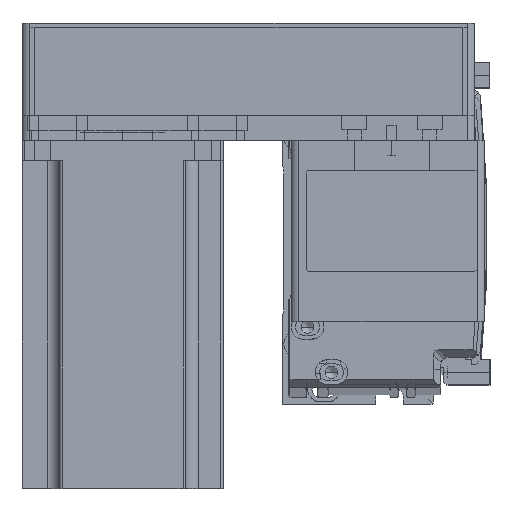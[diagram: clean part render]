
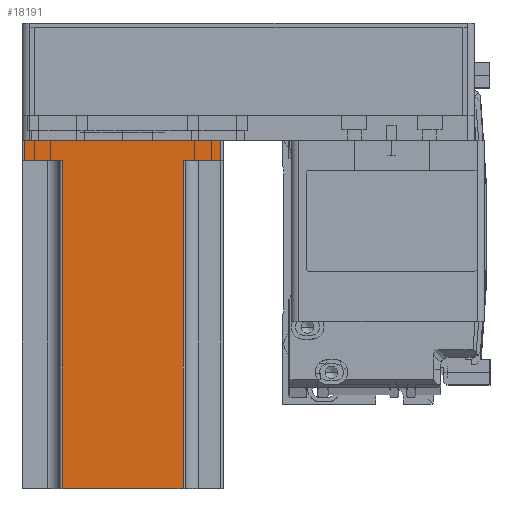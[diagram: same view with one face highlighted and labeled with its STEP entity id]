
A CAD part, top view. The second image highlights one B-rep face of the part: STEP entity #18191.
In plain terms, the highlighted planar face has unit normal (0, 0, 1) as drawn and (0, 1, 0) by its records, which use the part's own axes.
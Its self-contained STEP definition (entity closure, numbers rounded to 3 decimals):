
#522 = VECTOR ( 'NONE', #17550, 1000. ) ;
#743 = EDGE_CURVE ( 'NONE', #40545, #37401, #62537, .T. ) ;
#1443 = CARTESIAN_POINT ( 'NONE',  ( 39., 40., 138.3 ) ) ;
#1649 = CARTESIAN_POINT ( 'NONE',  ( -25., 40., 8. ) ) ;
#2076 = LINE ( 'NONE', #51930, #522 ) ;
#6078 = CARTESIAN_POINT ( 'NONE',  ( 40., 40., 138.3 ) ) ;
#7339 = LINE ( 'NONE', #29811, #56590 ) ;
#9242 = AXIS2_PLACEMENT_3D ( 'NONE', #6078, #40472, #10977 ) ;
#10212 = DIRECTION ( 'NONE',  ( 0., 0., 1. ) ) ;
#10977 = DIRECTION ( 'NONE',  ( 1., 0., 0. ) ) ;
#11109 = VECTOR ( 'NONE', #40799, 1000. ) ;
#13021 = VECTOR ( 'NONE', #43480, 1000. ) ;
#15346 = CARTESIAN_POINT ( 'NONE',  ( 39., 40., 0. ) ) ;
#15759 = ORIENTED_EDGE ( 'NONE', *, *, #24458, .F. ) ;
#17419 = CARTESIAN_POINT ( 'NONE',  ( 24., 40., 138.3 ) ) ;
#17550 = DIRECTION ( 'NONE',  ( -1., 0., 0. ) ) ;
#17841 = EDGE_CURVE ( 'NONE', #30041, #26587, #2076, .T. ) ;
#18153 = CARTESIAN_POINT ( 'NONE',  ( 39., 40., 8. ) ) ;
#18191 = ADVANCED_FACE ( 'NONE', ( #28934 ), #20706, .F. ) ;
#20706 = PLANE ( 'NONE',  #9242 ) ;
#20835 = CARTESIAN_POINT ( 'NONE',  ( -24., 40., 138.3 ) ) ;
#21935 = VECTOR ( 'NONE', #51752, 1000. ) ;
#22325 = CARTESIAN_POINT ( 'NONE',  ( 25., 40., 8. ) ) ;
#23688 = ORIENTED_EDGE ( 'NONE', *, *, #55030, .T. ) ;
#24249 = LINE ( 'NONE', #20835, #11109 ) ;
#24392 = CARTESIAN_POINT ( 'NONE',  ( 24., 40., 8. ) ) ;
#24458 = EDGE_CURVE ( 'NONE', #40545, #60844, #46529, .T. ) ;
#24579 = EDGE_LOOP ( 'NONE', ( #23688, #40997, #60652, #40341, #15759, #63583, #24657, #54789 ) ) ;
#24657 = ORIENTED_EDGE ( 'NONE', *, *, #31338, .T. ) ;
#25957 = EDGE_CURVE ( 'NONE', #30041, #60844, #62257, .T. ) ;
#26142 = LINE ( 'NONE', #1649, #50743 ) ;
#26587 = VERTEX_POINT ( 'NONE', #34572 ) ;
#26596 = VERTEX_POINT ( 'NONE', #49396 ) ;
#27560 = CARTESIAN_POINT ( 'NONE',  ( -39., 40., 8. ) ) ;
#28930 = EDGE_CURVE ( 'NONE', #44702, #44466, #60128, .T. ) ;
#28934 = FACE_OUTER_BOUND ( 'NONE', #24579, .T. ) ;
#29811 = CARTESIAN_POINT ( 'NONE',  ( 40., 40., 0. ) ) ;
#30041 = VERTEX_POINT ( 'NONE', #17419 ) ;
#31338 = EDGE_CURVE ( 'NONE', #37401, #44702, #7339, .T. ) ;
#34572 = CARTESIAN_POINT ( 'NONE',  ( -24., 40., 138.3 ) ) ;
#34696 = DIRECTION ( 'NONE',  ( -1., 0., 0. ) ) ;
#37401 = VERTEX_POINT ( 'NONE', #15346 ) ;
#40341 = ORIENTED_EDGE ( 'NONE', *, *, #25957, .T. ) ;
#40472 = DIRECTION ( 'NONE',  ( 0., -1., 0. ) ) ;
#40545 = VERTEX_POINT ( 'NONE', #18153 ) ;
#40755 = DIRECTION ( 'NONE',  ( 0., 0., -1. ) ) ;
#40799 = DIRECTION ( 'NONE',  ( 0., 0., 1. ) ) ;
#40997 = ORIENTED_EDGE ( 'NONE', *, *, #57141, .T. ) ;
#43480 = DIRECTION ( 'NONE',  ( 0., 0., -1. ) ) ;
#44466 = VERTEX_POINT ( 'NONE', #27560 ) ;
#44647 = CARTESIAN_POINT ( 'NONE',  ( -39., 40., 138.3 ) ) ;
#44702 = VERTEX_POINT ( 'NONE', #54366 ) ;
#46529 = LINE ( 'NONE', #22325, #21935 ) ;
#47942 = VECTOR ( 'NONE', #40755, 1000. ) ;
#48228 = CARTESIAN_POINT ( 'NONE',  ( 24., 40., 138.3 ) ) ;
#49396 = CARTESIAN_POINT ( 'NONE',  ( -24., 40., 8. ) ) ;
#50743 = VECTOR ( 'NONE', #60493, 1000. ) ;
#51752 = DIRECTION ( 'NONE',  ( -1., 0., 0. ) ) ;
#51930 = CARTESIAN_POINT ( 'NONE',  ( 40., 40., 138.3 ) ) ;
#54366 = CARTESIAN_POINT ( 'NONE',  ( -39., 40., 0. ) ) ;
#54789 = ORIENTED_EDGE ( 'NONE', *, *, #28930, .T. ) ;
#55030 = EDGE_CURVE ( 'NONE', #44466, #26596, #26142, .T. ) ;
#56590 = VECTOR ( 'NONE', #34696, 1000. ) ;
#57141 = EDGE_CURVE ( 'NONE', #26596, #26587, #24249, .T. ) ;
#58598 = VECTOR ( 'NONE', #10212, 1000. ) ;
#60128 = LINE ( 'NONE', #44647, #58598 ) ;
#60493 = DIRECTION ( 'NONE',  ( 1., 0., 0. ) ) ;
#60652 = ORIENTED_EDGE ( 'NONE', *, *, #17841, .F. ) ;
#60844 = VERTEX_POINT ( 'NONE', #24392 ) ;
#62257 = LINE ( 'NONE', #48228, #13021 ) ;
#62537 = LINE ( 'NONE', #1443, #47942 ) ;
#63583 = ORIENTED_EDGE ( 'NONE', *, *, #743, .T. ) ;
